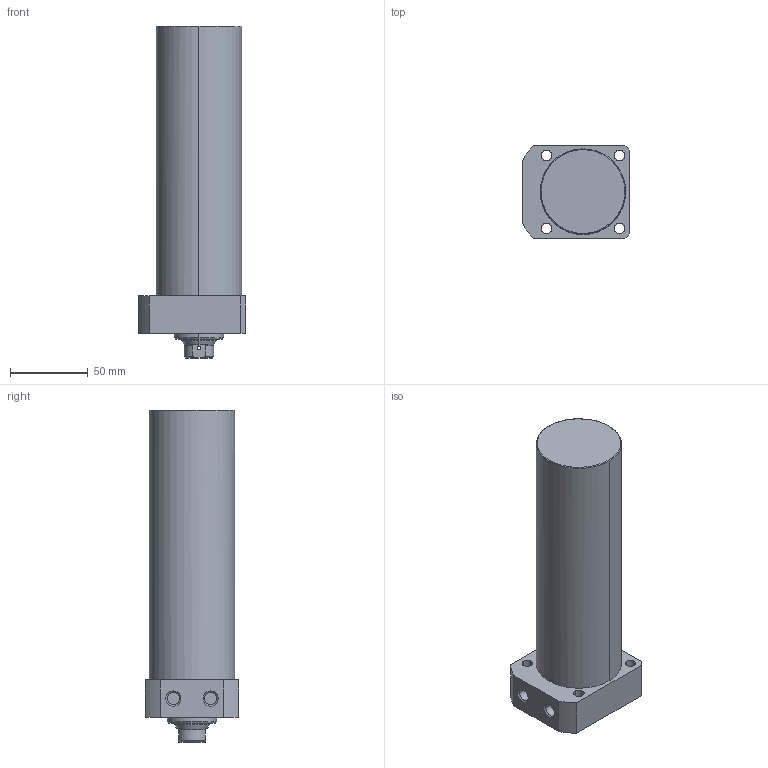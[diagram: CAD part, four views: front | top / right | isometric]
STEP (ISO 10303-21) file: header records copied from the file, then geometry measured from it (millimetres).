
FILE_DESCRIPTION((' '),'2;1');
FILE_NAME( 'TLLR-055CB-145.STEP.stp', '2025-10-24T16:34:46', (' '), ('--- Datakit www.datakit.com---'), ' Datakit CrossCadWare V2024.1 Dec 21 2023', 'Mastercam 2025', ' ');
FILE_SCHEMA(('AUTOMOTIVE_DESIGN { 1 0 10303 214 1 1 1 1 }'));
Length unit declared in the file: millimetre
Products named in the file (1): TLLR-055CB-145
Bounding box: 69 x 60 x 214 mm (x, y, z)
Volume: 510979.6 mm3; surface area: 48400.5 mm2
Topology: 1 solids, 1 shells, 67 faces, 197 edges, 136 vertices
Faces by surface type: cylinder 32, plane 19, cone 14, torus 2
Entity records: 3058 total; most frequent: CARTESIAN_POINT 1139, DIRECTION 426, ORIENTED_EDGE 390, EDGE_CURVE 195, AXIS2_PLACEMENT_3D 179, VERTEX_POINT 136, CIRCLE 111, EDGE_LOOP 85
